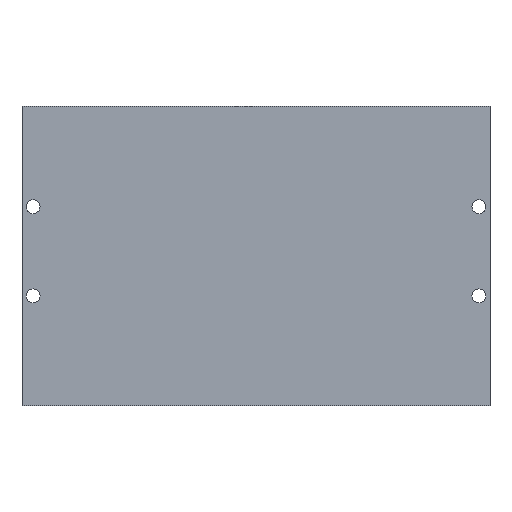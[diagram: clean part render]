
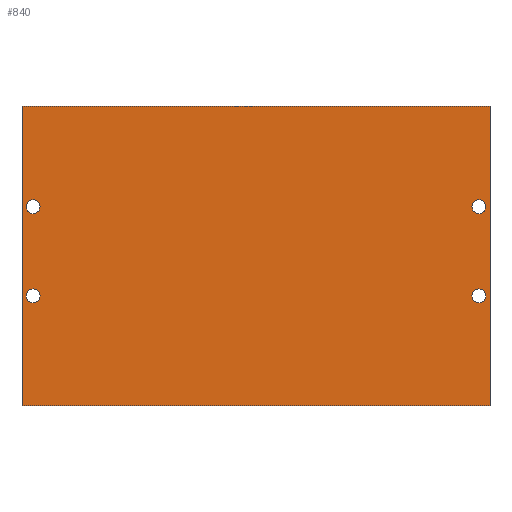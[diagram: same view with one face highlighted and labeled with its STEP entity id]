
A CAD part, front view. The second image highlights one B-rep face of the part: STEP entity #840.
In plain terms, the highlighted planar face has unit normal (0, -1, 0).
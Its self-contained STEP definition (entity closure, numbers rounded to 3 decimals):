
#2 = CARTESIAN_POINT ( 'NONE',  ( 2.8, 0., -25.3 ) ) ;
#18 = DIRECTION ( 'NONE',  ( 0., 1., 0. ) ) ;
#24 = ORIENTED_EDGE ( 'NONE', *, *, #653, .T. ) ;
#28 = LINE ( 'NONE', #575, #816 ) ;
#31 = AXIS2_PLACEMENT_3D ( 'NONE', #779, #461, #237 ) ;
#32 = CARTESIAN_POINT ( 'NONE',  ( 2.8, 0., -47.8 ) ) ;
#64 = DIRECTION ( 'NONE',  ( 0., 0., 1. ) ) ;
#70 = VECTOR ( 'NONE', #834, 1000. ) ;
#77 = ORIENTED_EDGE ( 'NONE', *, *, #789, .T. ) ;
#84 = ORIENTED_EDGE ( 'NONE', *, *, #148, .T. ) ;
#86 = CIRCLE ( 'NONE', #764, 1.75 ) ;
#92 = EDGE_CURVE ( 'NONE', #103, #842, #28, .T. ) ;
#100 = CARTESIAN_POINT ( 'NONE',  ( 0., 0., 0. ) ) ;
#103 = VERTEX_POINT ( 'NONE', #668 ) ;
#104 = CARTESIAN_POINT ( 'NONE',  ( 2.8, 0., -49.55 ) ) ;
#114 = CARTESIAN_POINT ( 'NONE',  ( 115.2, 0., -27.05 ) ) ;
#124 = CARTESIAN_POINT ( 'NONE',  ( 2.8, 0., -23.55 ) ) ;
#131 = LINE ( 'NONE', #938, #333 ) ;
#141 = VERTEX_POINT ( 'NONE', #124 ) ;
#143 = CARTESIAN_POINT ( 'NONE',  ( 115.2, 0., -25.3 ) ) ;
#148 = EDGE_CURVE ( 'NONE', #159, #984, #615, .T. ) ;
#149 = CARTESIAN_POINT ( 'NONE',  ( 0., 0., -75.5 ) ) ;
#159 = VERTEX_POINT ( 'NONE', #420 ) ;
#161 = FACE_BOUND ( 'NONE', #665, .T. ) ;
#162 = PLANE ( 'NONE',  #520 ) ;
#164 = ORIENTED_EDGE ( 'NONE', *, *, #293, .T. ) ;
#166 = AXIS2_PLACEMENT_3D ( 'NONE', #452, #18, #609 ) ;
#172 = DIRECTION ( 'NONE',  ( 1., 0., 0. ) ) ;
#207 = DIRECTION ( 'NONE',  ( 0., 1., 0. ) ) ;
#209 = EDGE_LOOP ( 'NONE', ( #871, #77 ) ) ;
#217 = ORIENTED_EDGE ( 'NONE', *, *, #638, .F. ) ;
#226 = CARTESIAN_POINT ( 'NONE',  ( 0., 0., 0. ) ) ;
#230 = VERTEX_POINT ( 'NONE', #617 ) ;
#234 = AXIS2_PLACEMENT_3D ( 'NONE', #2, #948, #64 ) ;
#237 = DIRECTION ( 'NONE',  ( 0., 0., 1. ) ) ;
#241 = DIRECTION ( 'NONE',  ( 0., 0., -1. ) ) ;
#252 = CIRCLE ( 'NONE', #31, 1.75 ) ;
#258 = CARTESIAN_POINT ( 'NONE',  ( 0., 0., 0. ) ) ;
#283 = CARTESIAN_POINT ( 'NONE',  ( 2.8, 0., -27.05 ) ) ;
#293 = EDGE_CURVE ( 'NONE', #984, #159, #86, .T. ) ;
#330 = AXIS2_PLACEMENT_3D ( 'NONE', #32, #556, #331 ) ;
#331 = DIRECTION ( 'NONE',  ( 0., 0., 1. ) ) ;
#333 = VECTOR ( 'NONE', #545, 1000. ) ;
#338 = FACE_BOUND ( 'NONE', #209, .T. ) ;
#364 = VERTEX_POINT ( 'NONE', #522 ) ;
#386 = DIRECTION ( 'NONE',  ( 0., 0., 1. ) ) ;
#392 = DIRECTION ( 'NONE',  ( 0., 1., 0. ) ) ;
#420 = CARTESIAN_POINT ( 'NONE',  ( 115.2, 0., -23.55 ) ) ;
#434 = ORIENTED_EDGE ( 'NONE', *, *, #92, .F. ) ;
#452 = CARTESIAN_POINT ( 'NONE',  ( 115.2, 0., -47.8 ) ) ;
#457 = ORIENTED_EDGE ( 'NONE', *, *, #598, .T. ) ;
#461 = DIRECTION ( 'NONE',  ( 0., 1., 0. ) ) ;
#472 = CARTESIAN_POINT ( 'NONE',  ( 115.2, 0., -46.05 ) ) ;
#498 = AXIS2_PLACEMENT_3D ( 'NONE', #624, #392, #386 ) ;
#503 = CARTESIAN_POINT ( 'NONE',  ( 115.2, 0., -25.3 ) ) ;
#507 = CIRCLE ( 'NONE', #498, 1.75 ) ;
#520 = AXIS2_PLACEMENT_3D ( 'NONE', #226, #696, #241 ) ;
#522 = CARTESIAN_POINT ( 'NONE',  ( 2.8, 0., -46.05 ) ) ;
#541 = VERTEX_POINT ( 'NONE', #104 ) ;
#545 = DIRECTION ( 'NONE',  ( 0., 0., 1. ) ) ;
#550 = DIRECTION ( 'NONE',  ( 0., 1., 0. ) ) ;
#556 = DIRECTION ( 'NONE',  ( 0., 1., 0. ) ) ;
#561 = FACE_BOUND ( 'NONE', #992, .T. ) ;
#565 = CARTESIAN_POINT ( 'NONE',  ( 115.2, 0., -49.55 ) ) ;
#567 = EDGE_CURVE ( 'NONE', #654, #103, #969, .T. ) ;
#575 = CARTESIAN_POINT ( 'NONE',  ( 118., 0., 0. ) ) ;
#582 = AXIS2_PLACEMENT_3D ( 'NONE', #503, #661, #666 ) ;
#588 = EDGE_LOOP ( 'NONE', ( #457, #24 ) ) ;
#595 = DIRECTION ( 'NONE',  ( 0., 0., 1. ) ) ;
#598 = EDGE_CURVE ( 'NONE', #364, #541, #737, .T. ) ;
#609 = DIRECTION ( 'NONE',  ( 0., 0., 1. ) ) ;
#615 = CIRCLE ( 'NONE', #582, 1.75 ) ;
#617 = CARTESIAN_POINT ( 'NONE',  ( 0., 0., -75.5 ) ) ;
#622 = VERTEX_POINT ( 'NONE', #472 ) ;
#624 = CARTESIAN_POINT ( 'NONE',  ( 2.8, 0., -25.3 ) ) ;
#638 = EDGE_CURVE ( 'NONE', #842, #230, #691, .T. ) ;
#647 = ORIENTED_EDGE ( 'NONE', *, *, #567, .F. ) ;
#653 = EDGE_CURVE ( 'NONE', #541, #364, #664, .T. ) ;
#654 = VERTEX_POINT ( 'NONE', #258 ) ;
#660 = ORIENTED_EDGE ( 'NONE', *, *, #794, .T. ) ;
#661 = DIRECTION ( 'NONE',  ( 0., 1., 0. ) ) ;
#664 = CIRCLE ( 'NONE', #330, 1.75 ) ;
#665 = EDGE_LOOP ( 'NONE', ( #660, #896 ) ) ;
#666 = DIRECTION ( 'NONE',  ( 0., 0., 1. ) ) ;
#668 = CARTESIAN_POINT ( 'NONE',  ( 118., 0., 0. ) ) ;
#677 = EDGE_CURVE ( 'NONE', #959, #622, #252, .T. ) ;
#691 = LINE ( 'NONE', #149, #70 ) ;
#696 = DIRECTION ( 'NONE',  ( 0., -1., 0. ) ) ;
#717 = CARTESIAN_POINT ( 'NONE',  ( 2.8, 0., -47.8 ) ) ;
#722 = DIRECTION ( 'NONE',  ( 0., 0., 1. ) ) ;
#728 = CIRCLE ( 'NONE', #166, 1.75 ) ;
#737 = CIRCLE ( 'NONE', #970, 1.75 ) ;
#752 = VERTEX_POINT ( 'NONE', #283 ) ;
#754 = FACE_OUTER_BOUND ( 'NONE', #930, .T. ) ;
#763 = VECTOR ( 'NONE', #172, 1000. ) ;
#764 = AXIS2_PLACEMENT_3D ( 'NONE', #143, #207, #595 ) ;
#779 = CARTESIAN_POINT ( 'NONE',  ( 115.2, 0., -47.8 ) ) ;
#783 = EDGE_CURVE ( 'NONE', #230, #654, #131, .T. ) ;
#789 = EDGE_CURVE ( 'NONE', #752, #141, #507, .T. ) ;
#794 = EDGE_CURVE ( 'NONE', #622, #959, #728, .T. ) ;
#814 = DIRECTION ( 'NONE',  ( 0., 0., -1. ) ) ;
#816 = VECTOR ( 'NONE', #814, 1000. ) ;
#818 = ORIENTED_EDGE ( 'NONE', *, *, #783, .F. ) ;
#834 = DIRECTION ( 'NONE',  ( -1., 0., 0. ) ) ;
#840 = ADVANCED_FACE ( 'NONE', ( #986, #338, #561, #161, #754 ), #162, .T. ) ;
#842 = VERTEX_POINT ( 'NONE', #844 ) ;
#844 = CARTESIAN_POINT ( 'NONE',  ( 118., 0., -75.5 ) ) ;
#871 = ORIENTED_EDGE ( 'NONE', *, *, #897, .T. ) ;
#896 = ORIENTED_EDGE ( 'NONE', *, *, #677, .T. ) ;
#897 = EDGE_CURVE ( 'NONE', #141, #752, #912, .T. ) ;
#912 = CIRCLE ( 'NONE', #234, 1.75 ) ;
#930 = EDGE_LOOP ( 'NONE', ( #818, #217, #434, #647 ) ) ;
#938 = CARTESIAN_POINT ( 'NONE',  ( 0., 0., 0. ) ) ;
#948 = DIRECTION ( 'NONE',  ( 0., 1., 0. ) ) ;
#959 = VERTEX_POINT ( 'NONE', #565 ) ;
#969 = LINE ( 'NONE', #100, #763 ) ;
#970 = AXIS2_PLACEMENT_3D ( 'NONE', #717, #550, #722 ) ;
#984 = VERTEX_POINT ( 'NONE', #114 ) ;
#986 = FACE_BOUND ( 'NONE', #588, .T. ) ;
#992 = EDGE_LOOP ( 'NONE', ( #84, #164 ) ) ;
